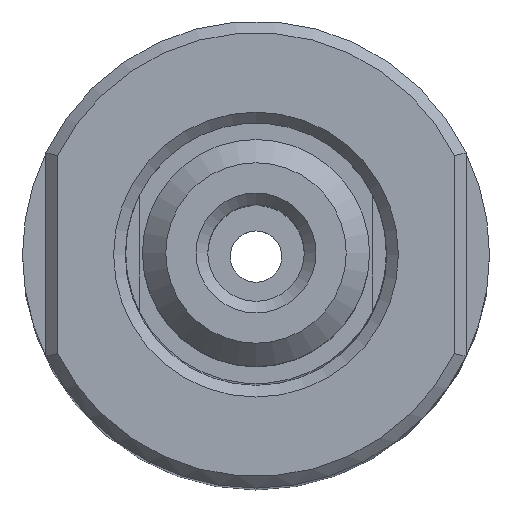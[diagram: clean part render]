
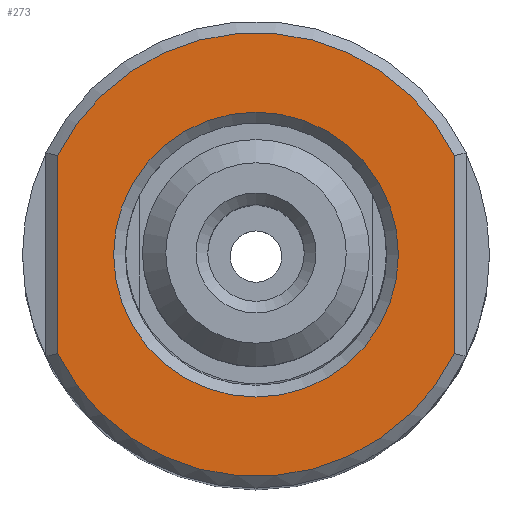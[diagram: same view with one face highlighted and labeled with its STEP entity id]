
A CAD part, top view. The second image highlights one B-rep face of the part: STEP entity #273.
In plain terms, the highlighted planar face has unit normal (0, 0, 1).
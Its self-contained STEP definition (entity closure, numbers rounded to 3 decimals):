
#273=ADVANCED_FACE('',(#534,#535),#536,.T.);
#534=FACE_BOUND('',#838,.T.);
#535=FACE_OUTER_BOUND('',#839,.T.);
#536=PLANE('',#840);
#838=EDGE_LOOP('',(#4994));
#839=EDGE_LOOP('',(#4995,#4996,#4997,#4998));
#840=AXIS2_PLACEMENT_3D('',#4999,#5000,#5001);
#4994=ORIENTED_EDGE('',*,*,#5457,.T.);
#4995=ORIENTED_EDGE('',*,*,#5462,.T.);
#4996=ORIENTED_EDGE('',*,*,#5463,.T.);
#4997=ORIENTED_EDGE('',*,*,#5454,.T.);
#4998=ORIENTED_EDGE('',*,*,#5464,.T.);
#4999=CARTESIAN_POINT('',(-10.0,0.0,27.077));
#5000=DIRECTION('',(0.0,0.0,1.0));
#5001=DIRECTION('',(1.0,0.0,0.0));
#5454=EDGE_CURVE('',#5683,#5688,#5690,.T.);
#5457=EDGE_CURVE('',#5694,#5694,#5695,.F.);
#5462=EDGE_CURVE('',#5702,#5703,#5704,.T.);
#5463=EDGE_CURVE('',#5703,#5683,#5705,.T.);
#5464=EDGE_CURVE('',#5688,#5702,#5706,.T.);
#5683=VERTEX_POINT('',#5997);
#5688=VERTEX_POINT('',#6006);
#5690=LINE('',#6011,#6012);
#5694=VERTEX_POINT('',#6016);
#5695=CIRCLE('',#6017,6.1);
#5702=VERTEX_POINT('',#6024);
#5703=VERTEX_POINT('',#6025);
#5704=LINE('',#6026,#6027);
#5705=CIRCLE('',#6028,9.5);
#5706=CIRCLE('',#6029,9.5);
#5997=CARTESIAN_POINT('',(4.243,8.5,27.077));
#6006=CARTESIAN_POINT('',(-4.243,8.5,27.077));
#6011=CARTESIAN_POINT('',(-10.0,8.5,27.077));
#6012=VECTOR('',#7502,1.0);
#6016=CARTESIAN_POINT('',(6.1,0.,27.077));
#6017=AXIS2_PLACEMENT_3D('',#7506,#7507,#7508);
#6024=CARTESIAN_POINT('',(-4.243,-8.5,27.077));
#6025=CARTESIAN_POINT('',(4.243,-8.5,27.077));
#6026=CARTESIAN_POINT('',(-10.0,-8.5,27.077));
#6027=VECTOR('',#7515,1.0);
#6028=AXIS2_PLACEMENT_3D('',#7516,#7517,#7518);
#6029=AXIS2_PLACEMENT_3D('',#7519,#7520,#7521);
#7502=DIRECTION('',(-1.0,0.0,0.0));
#7506=CARTESIAN_POINT('',(0.0,0.0,27.077));
#7507=DIRECTION('',(0.0,0.0,1.0));
#7508=DIRECTION('',(1.0,0.0,0.0));
#7515=DIRECTION('',(1.0,0.0,0.0));
#7516=CARTESIAN_POINT('',(0.0,0.0,27.077));
#7517=DIRECTION('',(0.0,0.0,1.0));
#7518=DIRECTION('',(1.0,0.0,0.0));
#7519=CARTESIAN_POINT('',(0.0,0.0,27.077));
#7520=DIRECTION('',(0.0,0.0,1.0));
#7521=DIRECTION('',(1.0,0.0,0.0));
